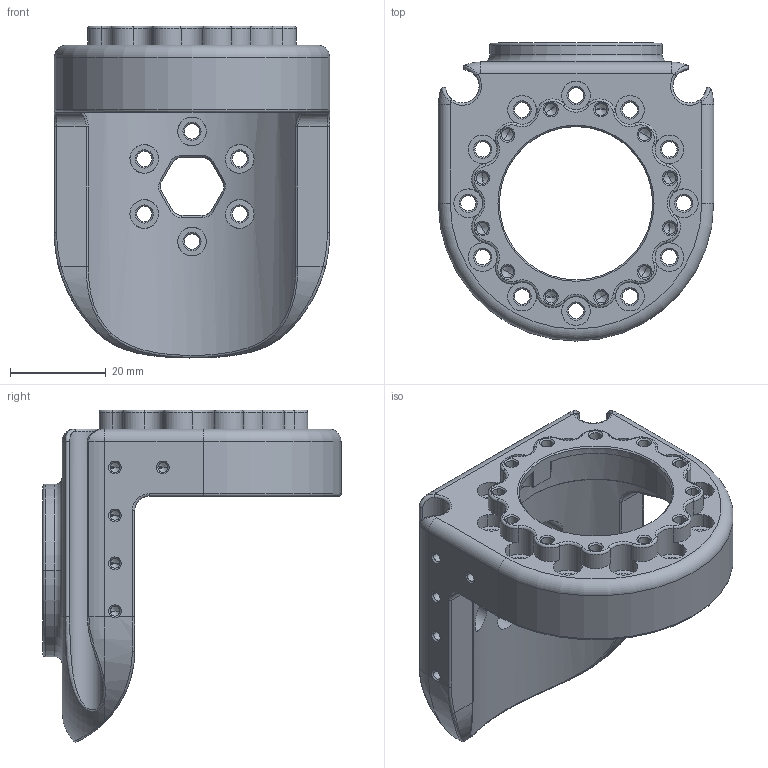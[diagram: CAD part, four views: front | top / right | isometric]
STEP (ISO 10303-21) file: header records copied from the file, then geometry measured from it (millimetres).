
FILE_DESCRIPTION((''),'2;1');
FILE_NAME('JXB-NE30C-JIA','2019-12-03T',('Win10'),(''),'PRO/ENGINEER BY PARAMETRIC TECHNOLOGY CORPORATION, 2010280','PRO/ENGINEER BY PARAMETRIC TECHNOLOGY CORPORATION, 2010280','');
FILE_SCHEMA(('AUTOMOTIVE_DESIGN_CC2 { 1 2 10303 214 -1 1 5 2 }'));
Length unit declared in the file: millimetre
Products named in the file (1): JXB-NE30C-JIA
Bounding box: 57.5 x 62.25 x 69.31 mm (x, y, z)
Volume: 36591 mm3; surface area: 19653.1 mm2
Topology: 1 solids, 1 shells, 455 faces, 1089 edges, 620 vertices
Faces by surface type: cone 170, cylinder 169, plane 44, torus 44, bspline 28
Entity records: 18048 total; most frequent: CARTESIAN_POINT 4349, DIRECTION 2386, ORIENTED_EDGE 2090, PRESENTATION_STYLE_ASSIGNMENT 1046, STYLED_ITEM 1046, CURVE_STYLE 1045, EDGE_CURVE 1045, AXIS2_PLACEMENT_3D 986
